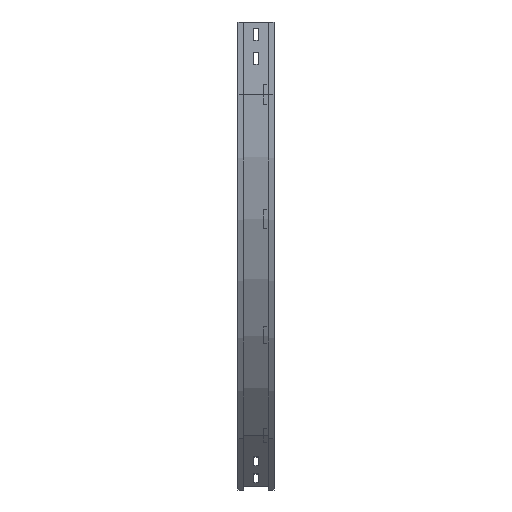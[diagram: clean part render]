
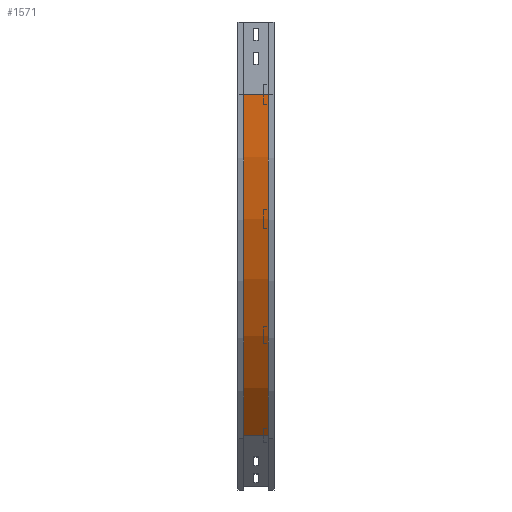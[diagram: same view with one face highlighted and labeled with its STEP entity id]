
A CAD part, left-side view. The second image highlights one B-rep face of the part: STEP entity #1571.
In plain terms, the highlighted cylindrical face has radius 1000 mm (diameter 2000 mm), a partial arc.
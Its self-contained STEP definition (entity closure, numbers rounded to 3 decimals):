
#152 = DIRECTION ( 'NONE',  ( 0., -1., 0. ) ) ;
#173 = DIRECTION ( 'NONE',  ( 0., -1., 0. ) ) ;
#191 = ORIENTED_EDGE ( 'NONE', *, *, #3004, .F. ) ;
#512 = CARTESIAN_POINT ( 'NONE',  ( 301.893, 12., -857.107 ) ) ;
#588 = CARTESIAN_POINT ( 'NONE',  ( 1009., 12., -150. ) ) ;
#724 = AXIS2_PLACEMENT_3D ( 'NONE', #588, #3201, #1716 ) ;
#732 = DIRECTION ( 'NONE',  ( -1., 0., 0. ) ) ;
#902 = CARTESIAN_POINT ( 'NONE',  ( 9., 12., -150. ) ) ;
#936 = CARTESIAN_POINT ( 'NONE',  ( 301.893, 12., -857.107 ) ) ;
#940 = VERTEX_POINT ( 'NONE', #1627 ) ;
#1058 = EDGE_CURVE ( 'NONE', #940, #2464, #1711, .T. ) ;
#1276 = VERTEX_POINT ( 'NONE', #2959 ) ;
#1284 = FACE_OUTER_BOUND ( 'NONE', #2308, .T. ) ;
#1339 = ORIENTED_EDGE ( 'NONE', *, *, #1722, .F. ) ;
#1530 = CARTESIAN_POINT ( 'NONE',  ( 1009., 63., -150. ) ) ;
#1571 = ADVANCED_FACE ( 'NONE', ( #1284 ), #3106, .T. ) ;
#1626 = CIRCLE ( 'NONE', #724, 1000. ) ;
#1627 = CARTESIAN_POINT ( 'NONE',  ( 301.893, 63., -857.107 ) ) ;
#1711 = LINE ( 'NONE', #936, #2712 ) ;
#1715 = DIRECTION ( 'NONE',  ( 0., -1., 0. ) ) ;
#1716 = DIRECTION ( 'NONE',  ( -1., 0., 0. ) ) ;
#1722 = EDGE_CURVE ( 'NONE', #1276, #2464, #1626, .T. ) ;
#1854 = CARTESIAN_POINT ( 'NONE',  ( 9., 63., -150. ) ) ;
#1872 = CIRCLE ( 'NONE', #3180, 1000. ) ;
#2071 = DIRECTION ( 'NONE',  ( 0., -1., 0. ) ) ;
#2087 = DIRECTION ( 'NONE',  ( 0., 0., -1. ) ) ;
#2096 = VECTOR ( 'NONE', #1715, 1000. ) ;
#2308 = EDGE_LOOP ( 'NONE', ( #1339, #191, #3039, #3410 ) ) ;
#2464 = VERTEX_POINT ( 'NONE', #512 ) ;
#2499 = LINE ( 'NONE', #902, #2096 ) ;
#2712 = VECTOR ( 'NONE', #152, 1000. ) ;
#2767 = AXIS2_PLACEMENT_3D ( 'NONE', #3135, #2071, #2087 ) ;
#2869 = VERTEX_POINT ( 'NONE', #1854 ) ;
#2959 = CARTESIAN_POINT ( 'NONE',  ( 9., 12., -150. ) ) ;
#3004 = EDGE_CURVE ( 'NONE', #2869, #1276, #2499, .T. ) ;
#3039 = ORIENTED_EDGE ( 'NONE', *, *, #3104, .T. ) ;
#3104 = EDGE_CURVE ( 'NONE', #2869, #940, #1872, .T. ) ;
#3106 = CYLINDRICAL_SURFACE ( 'NONE', #2767, 1000. ) ;
#3135 = CARTESIAN_POINT ( 'NONE',  ( 1009., 0., -150. ) ) ;
#3180 = AXIS2_PLACEMENT_3D ( 'NONE', #1530, #173, #732 ) ;
#3201 = DIRECTION ( 'NONE',  ( 0., -1., 0. ) ) ;
#3410 = ORIENTED_EDGE ( 'NONE', *, *, #1058, .T. ) ;
